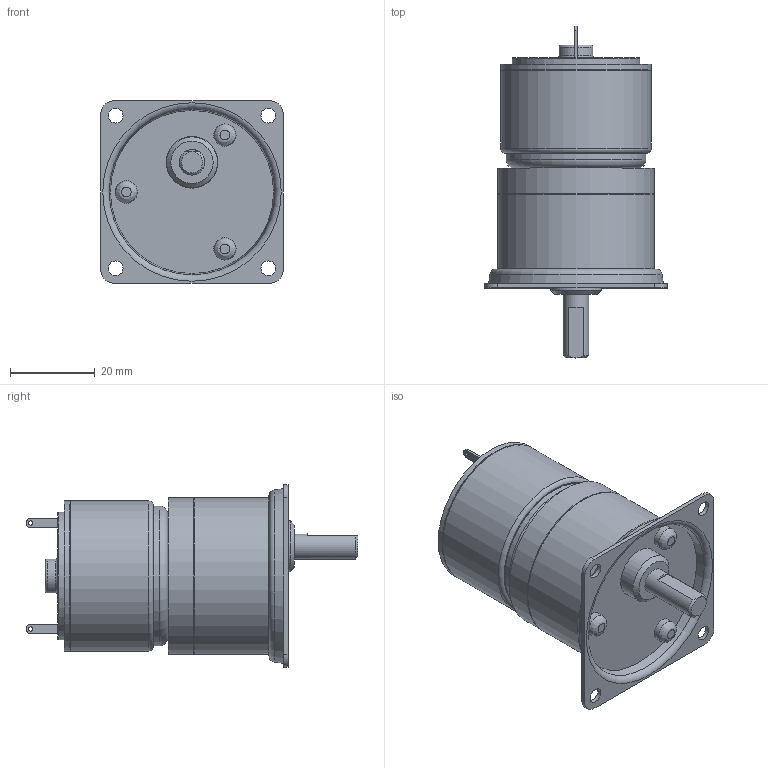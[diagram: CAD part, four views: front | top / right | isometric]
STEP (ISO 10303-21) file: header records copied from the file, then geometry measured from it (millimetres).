
FILE_DESCRIPTION((''),'2;1');
FILE_NAME('C:\Documents and Settings\SSEGAWA\デスクトップ\TP-3526G-PHM-2.STP','2013-07-09T17:42:32',('SSEGAWA'),(''),'Autodesk Inventor 2010','Autodesk Inventor 2010','');
FILE_SCHEMA(('CONFIG_CONTROL_DESIGN'));
Length unit declared in the file: millimetre
Products named in the file (5): tp_3526g_phm_2; phm_2; hm_2; □43; tp_3526g
Assembly tree (4 placements, depth 3):
  tp_3526g_phm_2
    phm_2
      hm_2
      □43
    tp_3526g
Bounding box: 43 x 78.3 x 43 mm (x, y, z)
Volume: 53558.2 mm3; surface area: 14997.5 mm2
Topology: 3 solids, 3 shells, 105 faces, 225 edges, 148 vertices
Faces by surface type: plane 40, cylinder 30, bspline 24, torus 6, cone 5
Full cylindrical faces by diameter (mm): 2 x1, 2.4 x1, 5 x2, 5.3 x3, 6 x1, 8 x1, 10 x1, 12 x1, 12.2 x1, 30 x1, 33 x1, 35 x1, 35.4 x2, 36.6 x1, 37 x2
Entity records: 3045 total; most frequent: CARTESIAN_POINT 963, DIRECTION 431, ORIENTED_EDGE 298, EDGE_LOOP 195, AXIS2_PLACEMENT_3D 194, EDGE_CURVE 149, VERTEX_POINT 126, FACE_OUTER_BOUND 105
